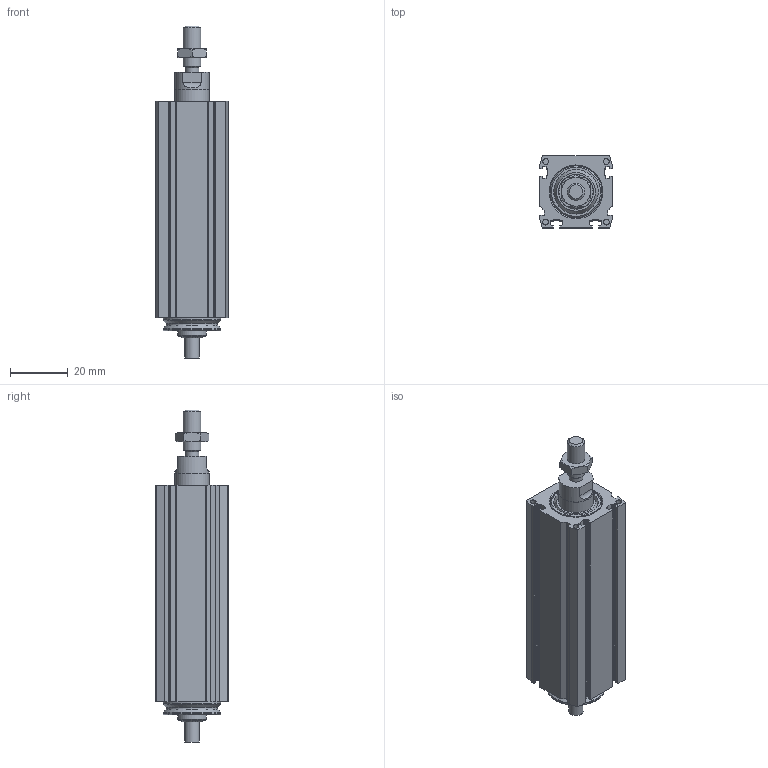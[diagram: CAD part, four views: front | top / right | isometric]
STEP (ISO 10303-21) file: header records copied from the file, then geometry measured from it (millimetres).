
FILE_DESCRIPTION(/* description */ ('STEP AP214'),/* implementation_level */ '2;1');
FILE_NAME(/* name */ 'MCE 25 0602 25 0(0)',/* time_stamp */ '2023-10-05T12:54:39+02:00',/* author */ ('License CC BY-ND 4.0'),/* organization */ ('CADENAS'),/* preprocessor_version */ 'ST-DEVELOPER v19.3',/* originating_system */ 'PARTsolutions',/* authorisation */ ' ');
FILE_SCHEMA (('AUTOMOTIVE_DESIGN {1 0 10303 214 3 1 1}'));
Length unit declared in the file: millimetre
Products named in the file (4): MCE 25 0602 25  0(0); 25_nut; 25(250)_rod; 25(25)_msc
Assembly tree (3 placements, depth 2):
  MCE 25 0602 25  0(0)
    25_nut
    25(250)_rod
    25(25)_msc
Bounding box: 25 x 25 x 115 mm (x, y, z)
Volume: 41799.9 mm3; surface area: 21465.1 mm2
Topology: 3 solids, 3 shells, 245 faces, 623 edges, 406 vertices
Faces by surface type: plane 110, cylinder 108, cone 23, torus 4
Full cylindrical faces by diameter (mm): 2.013 x8, 4.8 x1, 4.917 x1, 5 x1, 6 x1, 8 x1, 10 x1, 11.8 x1, 12 x2, 14.7 x1, 15.4 x1, 18 x1, 19 x2, 20 x2
Entity records: 7373 total; most frequent: CARTESIAN_POINT 1327, DIRECTION 1300, ORIENTED_EDGE 1164, EDGE_CURVE 582, AXIS2_PLACEMENT_3D 495, VERTEX_POINT 404, LINE 310, VECTOR 310
